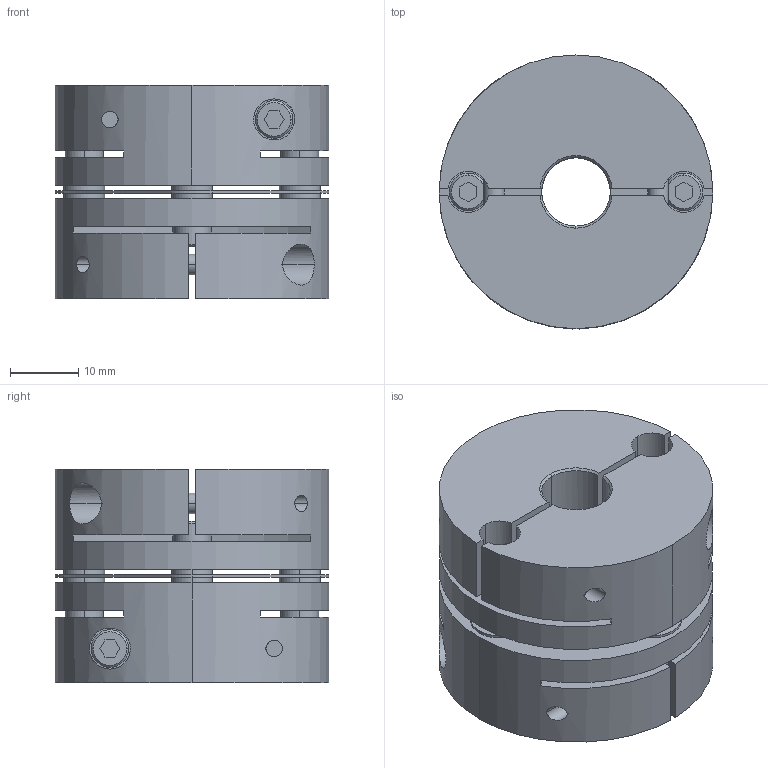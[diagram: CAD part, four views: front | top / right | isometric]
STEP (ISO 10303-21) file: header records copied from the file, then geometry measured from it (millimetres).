
FILE_DESCRIPTION((''),'2;1');
FILE_NAME('LAS-40C-10×10.stp','2011-08-11T08:46:38',(''),(''),'AutoCAD STEP 2000i','AutoCAD 2000i',', , ');
FILE_SCHEMA(('CONFIG_CONTROL_DESIGN'));
Length unit declared in the file: millimetre
Products named in the file (5): LAS-40C-10×10; 忣兜1; LA-4002-D10-1; LA-4002-D10; LAS40-ITA
Assembly tree (4 placements, depth 2):
  LAS-40C-10×10
    忣兜1
    LA-4002-D10-1
    LA-4002-D10
    LAS40-ITA
Bounding box: 40 x 40 x 31.2 mm (x, y, z)
Volume: 31634.5 mm3; surface area: 15561.7 mm2
Topology: 1 solids, 1 shells, 236 faces, 624 edges, 408 vertices
Faces by surface type: plane 112, cylinder 96, cone 28
Entity records: 8107 total; most frequent: CARTESIAN_POINT 1913, DIRECTION 1302, ORIENTED_EDGE 1248, EDGE_CURVE 624, AXIS2_PLACEMENT_3D 477, VERTEX_POINT 408, VECTOR 348, LINE 348
